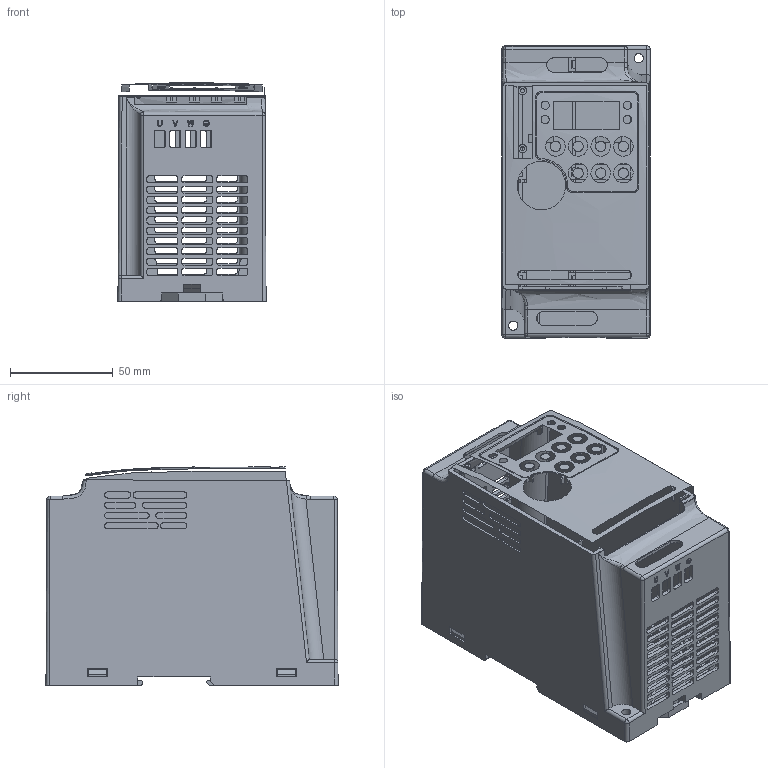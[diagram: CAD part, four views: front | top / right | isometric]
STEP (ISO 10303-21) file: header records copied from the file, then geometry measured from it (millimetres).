
FILE_DESCRIPTION (( 'STEP AP203' ), '1' );
FILE_NAME ('2_2kw.STEP', '2019-05-24T13:10:40', ( '' ), ( '' ), 'SwSTEP 2.0', 'SolidWorks 2012', '' );
FILE_SCHEMA (( 'CONFIG_CONTROL_DESIGN' ));
Products named in the file (1): 2_2kw
Bounding box: 72.04 x 142.04 x 106.2 mm (x, y, z)
Surface area: 140984.6 mm2 (no closed solid volume)
Topology: 0 solids, 40 shells, 1862 faces, 5338 edges, 3573 vertices
Faces by surface type: plane 1372, cylinder 441, bspline 40, cone 9
Entity records: 76779 total; most frequent: CARTESIAN_POINT 31332, ORIENTED_EDGE 10551, DIRECTION 7290, EDGE_CURVE 5338, VERTEX_POINT 3573, LINE 3394, VECTOR 3394, EDGE_LOOP 2113
